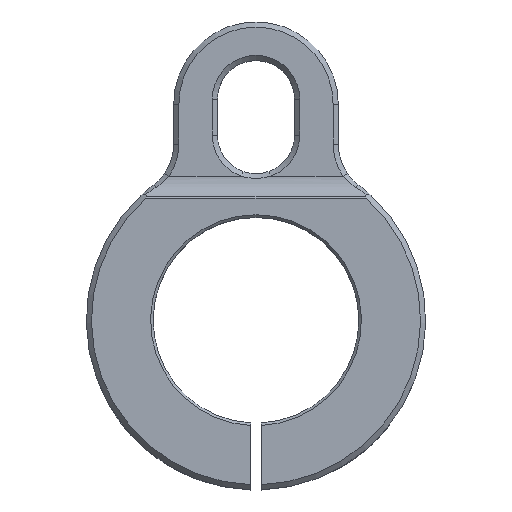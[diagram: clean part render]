
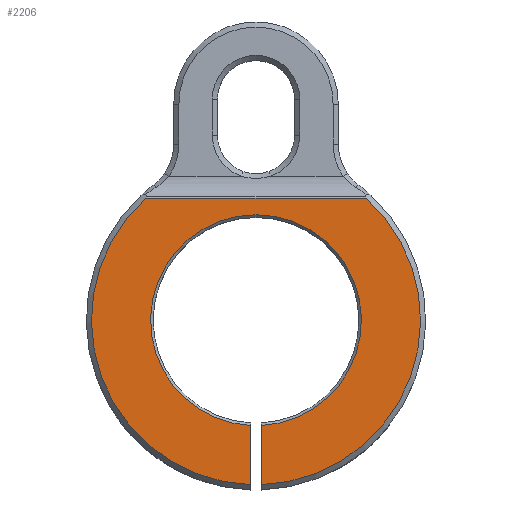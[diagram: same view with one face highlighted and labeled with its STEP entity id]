
A CAD part, top view. The second image highlights one B-rep face of the part: STEP entity #2206.
In plain terms, the highlighted planar face has unit normal (0, 0, 1).
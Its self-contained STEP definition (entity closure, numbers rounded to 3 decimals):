
#162=CARTESIAN_POINT('',(-1.,-20.476,
10.));
#839=CARTESIAN_POINT('',(0.,0.,10.));
#840=DIRECTION('',(0.,0.,1.));
#841=DIRECTION('',(0.049,-0.999,0.));
#842=AXIS2_PLACEMENT_3D('',#839,#840,#841);
#847=DIRECTION('',(0.,-1.,0.));
#848=VECTOR('',#847,11.509);
#849=CARTESIAN_POINT('',(-1.,-20.476,
10.));
#850=LINE('',#849,#848);
#854=CARTESIAN_POINT('',(0.,0.,10.));
#855=DIRECTION('',(0.,0.,1.));
#856=DIRECTION('',(-0.67,0.742,0.));
#857=AXIS2_PLACEMENT_3D('',#854,#855,#856);
#862=DIRECTION('',(-1.,0.,0.));
#863=VECTOR('',#862,42.876);
#864=CARTESIAN_POINT('',(21.438,23.757,10.));
#865=LINE('',#864,#863);
#869=CARTESIAN_POINT('',(0.,0.,10.));
#870=DIRECTION('',(0.,0.,1.));
#871=DIRECTION('',(0.031,-1.,0.));
#872=AXIS2_PLACEMENT_3D('',#869,#870,#871);
#877=DIRECTION('',(0.,1.,0.));
#878=VECTOR('',#877,11.509);
#879=CARTESIAN_POINT('',(1.,-31.984,10.));
#880=LINE('',#879,#878);
#1389=VERTEX_POINT('',#162);
#1390=CARTESIAN_POINT('',(1.,-20.476,10.));
#1391=VERTEX_POINT('',#1390);
#1397=CARTESIAN_POINT('',(21.438,23.757,10.));
#1398=CARTESIAN_POINT('',(-21.438,23.757,10.));
#1399=VERTEX_POINT('',#1397);
#1400=VERTEX_POINT('',#1398);
#1413=CARTESIAN_POINT('',(-1.,-31.984,10.));
#1414=VERTEX_POINT('',#1413);
#1415=CARTESIAN_POINT('',(1.,-31.984,10.));
#1416=VERTEX_POINT('',#1415);
#2192=CARTESIAN_POINT('',(0.,0.,10.));
#2193=DIRECTION('',(0.,0.,1.));
#2194=DIRECTION('',(1.,0.,0.));
#2195=AXIS2_PLACEMENT_3D('',#2192,#2193,#2194);
#2196=PLANE('',#2195);
#2198=ORIENTED_EDGE('',*,*,#2197,.T.);
#2199=ORIENTED_EDGE('',*,*,#1633,.T.);
#2200=ORIENTED_EDGE('',*,*,#2168,.F.);
#2201=ORIENTED_EDGE('',*,*,#2155,.F.);
#2202=ORIENTED_EDGE('',*,*,#2187,.F.);
#2203=ORIENTED_EDGE('',*,*,#1588,.T.);
#2204=EDGE_LOOP('',(#2198,#2199,#2200,#2201,#2202,#2203));
#2205=FACE_OUTER_BOUND('',#2204,.F.);
#2206=ADVANCED_FACE('',(#2205),#2196,.T.);
#843=CIRCLE('',#842,20.5);
#858=CIRCLE('',#857,32.);
#873=CIRCLE('',#872,32.);
#1588=EDGE_CURVE('',#1416,#1391,#880,.T.);
#1633=EDGE_CURVE('',#1389,#1414,#850,.T.);
#2155=EDGE_CURVE('',#1399,#1400,#865,.T.);
#2168=EDGE_CURVE('',#1400,#1414,#858,.T.);
#2187=EDGE_CURVE('',#1416,#1399,#873,.T.);
#2197=EDGE_CURVE('',#1391,#1389,#843,.T.);
